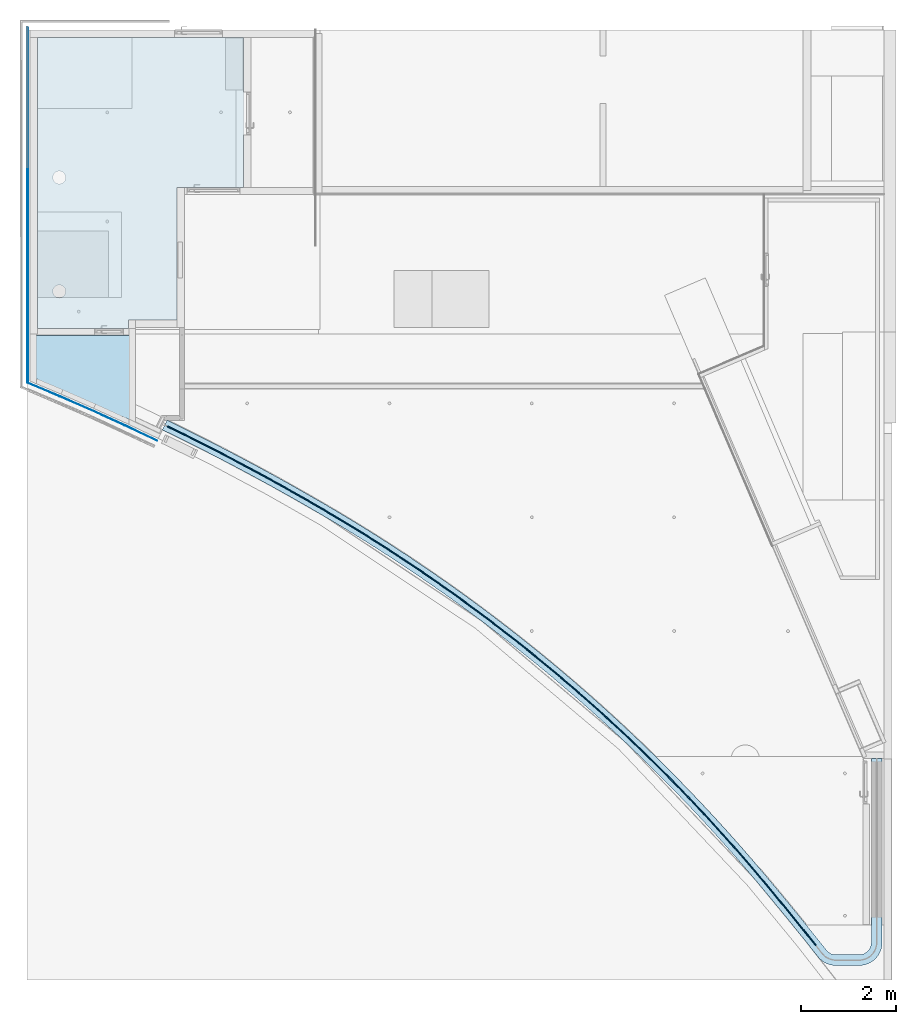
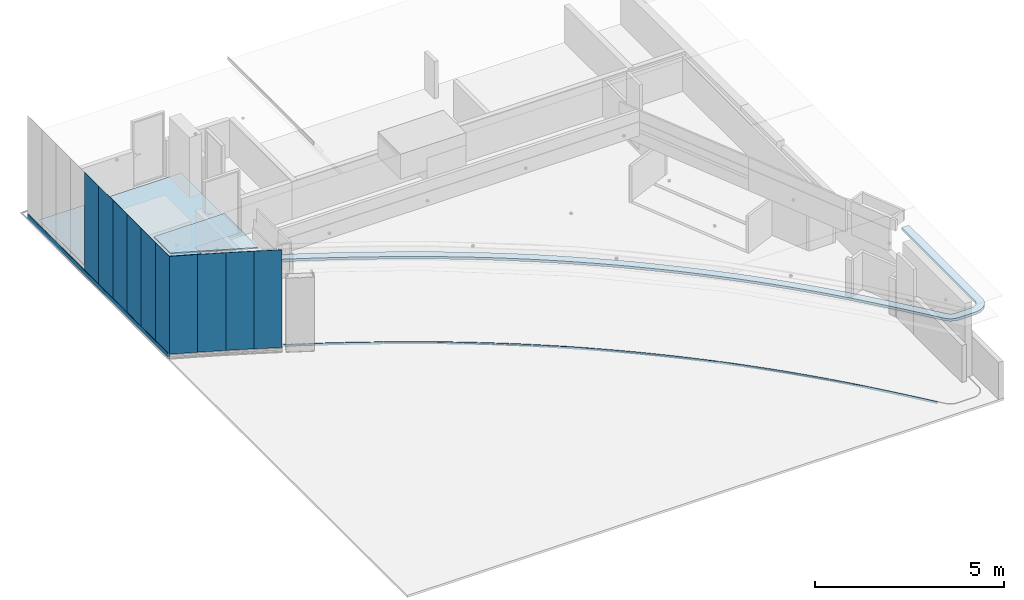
# One storey, part 1 of 16: 11 plates, 10 members, 9 slabs, 2 openings, 5 elements without a shape of their own.
"""IFC2X3 building model written with IfcOpenShell, lengths in millimetres."""

import ifcopenshell
import ifcopenshell.guid

model = None  # the IFC model being written
_history = None  # IfcOwnerHistory: only IFC2X3 demands one
_inside = {}  # id of a spatial element -> (the spatial element, [elements in it])
_under = {}  # id of a project, library or spatial element -> (it, [spatial elements below it])
_declared = {}  # id of a project -> (the project, [libraries it declares])
_typed = {}  # id of a type object -> (the type object, [elements of that type])
_made_of = {}  # id of a material, layer set ... -> (it, [elements and type objects made of it])


def new_model(schema):
    """Start an empty IFC model of exactly this schema.

    Asked for "IFC4X3", IfcOpenShell would pick the latest addendum, in which some entities
    have other attributes; the version numbers below select the first issue.
    IFC2X3 requires an IfcOwnerHistory on every rooted entity: one is made here for all.
    """
    global model, _history
    if schema == "IFC4X3":
        model = ifcopenshell.file(schema_version=(4, 3, 0, 0))
    else:
        model = ifcopenshell.file(schema=schema)
    _inside.clear()
    _under.clear()
    _declared.clear()
    _typed.clear()
    _made_of.clear()
    _history = None
    if model.schema == "IFC2X3":
        org = make("IfcOrganization", Name="unknown")
        user = make(
            "IfcPersonAndOrganization",
            ThePerson=make("IfcPerson", FamilyName="unknown"),
            TheOrganization=org,
        )
        app = make(
            "IfcApplication",
            ApplicationDeveloper=org,
            Version="unknown",
            ApplicationFullName="unknown",
            ApplicationIdentifier="unknown",
        )
        _history = make(
            "IfcOwnerHistory",
            OwningUser=user,
            OwningApplication=app,
            ChangeAction="ADDED",
            CreationDate=0,
        )
    return model


def make(cls, **values):
    """One entity of the class cls with the attributes given. An attribute that is None is left unset."""
    return model.create_entity(
        cls, **{name: value for name, value in values.items() if value is not None}
    )


def entity(cls, *values):
    """Any entity or typed value of the class cls, its attributes in the order of the schema. None: left unset."""
    e = model.create_entity(cls)
    for i, value in enumerate(values):
        if value is not None:
            e[i] = value
    return e


def rooted(cls, **values):
    """An entity with a GlobalId (a new one), such as an element, a storey or a relation."""
    return make(cls, GlobalId=ifcopenshell.guid.new(), OwnerHistory=_history, **values)


def si_unit(unit_type, name, prefix=None):
    """IfcSIUnit, for example si_unit("LENGTHUNIT", "METRE", prefix="MILLI")."""
    return make("IfcSIUnit", UnitType=unit_type, Prefix=prefix, Name=name)


def converted_unit(unit_type, name, factor, base, dimensions=None, offset=None):
    """IfcConversionBasedUnit, such as the inch: factor (a typed value) times the base unit."""
    return make(
        "IfcConversionBasedUnit"
        if offset is None
        else "IfcConversionBasedUnitWithOffset",
        ConversionOffset=offset,
        Dimensions=None
        if dimensions is None
        else entity("IfcDimensionalExponents", *dimensions),
        UnitType=unit_type,
        Name=name,
        ConversionFactor=make(
            "IfcMeasureWithUnit", ValueComponent=factor, UnitComponent=base
        ),
    )


def derived_unit(unit_type, elements):
    """IfcDerivedUnit: a product of units, each with its exponent."""
    return make(
        "IfcDerivedUnit",
        Elements=[
            make("IfcDerivedUnitElement", Unit=unit, Exponent=power)
            for unit, power in elements
        ],
        UnitType=unit_type,
    )


def assignment(units):
    """IfcUnitAssignment: the units of a project."""
    return None if units is None else make("IfcUnitAssignment", Units=units)


def point(xyz):
    """IfcCartesianPoint."""
    return None if xyz is None else make("IfcCartesianPoint", Coordinates=xyz)


def direction(xyz):
    """IfcDirection."""
    return None if xyz is None else make("IfcDirection", DirectionRatios=xyz)


def frame(location, z_axis=None, x_axis=None):
    """IfcAxis2Placement3D, a coordinate frame: its origin and axes. An axis left out is left unset."""
    return make(
        "IfcAxis2Placement3D",
        Location=point(location),
        Axis=direction(z_axis),
        RefDirection=direction(x_axis),
    )


def frame_2d(location, x_axis=None):
    """IfcAxis2Placement2D, a coordinate frame in the plane: its origin and x axis."""
    return make(
        "IfcAxis2Placement2D", Location=point(location), RefDirection=direction(x_axis)
    )


def origin():
    """The frame at (0, 0, 0) with its axes left unset."""
    return frame((0.0, 0.0, 0.0))


def origin_with_axes():
    """The frame at (0, 0, 0) with the z axis (0, 0, 1) and the x axis (1, 0, 0) written out."""
    return frame((0.0, 0.0, 0.0), z_axis=(0.0, 0.0, 1.0), x_axis=(1.0, 0.0, 0.0))


def origin_2d_with_axis():
    """The frame at (0, 0) in the plane with the x axis (1, 0) written out."""
    return frame_2d((0.0, 0.0), x_axis=(1.0, 0.0))


def place(relative_to, where):
    """IfcLocalPlacement: puts the frame where relative to a parent placement (None: the world)."""
    return make(
        "IfcLocalPlacement", PlacementRelTo=relative_to, RelativePlacement=where
    )


def context(
    kind, dimensions, precision=None, world=None, true_north=None, identifier=None
):
    """IfcGeometricRepresentationContext, for example the 3D "Model" context."""
    return make(
        "IfcGeometricRepresentationContext",
        ContextIdentifier=identifier,
        ContextType=kind,
        CoordinateSpaceDimension=dimensions,
        Precision=precision,
        WorldCoordinateSystem=world,
        TrueNorth=true_north,
    )


def subcontext(parent, identifier, kind, view, scale=None):
    """IfcGeometricRepresentationSubContext, for example "Body" below "Model"."""
    return make(
        "IfcGeometricRepresentationSubContext",
        ContextIdentifier=identifier,
        ContextType=kind,
        ParentContext=parent,
        TargetScale=scale,
        TargetView=view,
    )


def project(units=None, contexts=None):
    """IfcProject with its units and contexts."""
    return rooted(
        "IfcProject",
        Name="project",
        RepresentationContexts=contexts,
        UnitsInContext=assignment(units),
    )


def spatial(cls, under=None, at=None, **own):
    """A site, building, storey or space (cls), placed at a placement, below another one or the project."""
    s = rooted(cls, ObjectPlacement=at, **own)
    if under is not None:
        _under.setdefault(under.id(), (under, []))[1].append(s)
    return s


def polyline(points):
    """IfcPolyline through the points."""
    return make("IfcPolyline", Points=[point(p) for p in points])


def circle_curve(where, radius):
    """IfcCircle in the frame where."""
    return make("IfcCircle", Position=where, Radius=radius)


def parameter(value):
    """IfcParameterValue: where a trimmed curve begins or ends, as a parameter of its basis curve."""
    return model.create_entity("IfcParameterValue", value)


def trimmed(basis, trim1, trim2, sense, master):
    """IfcTrimmedCurve: the piece of a basis curve between two trims."""
    return make(
        "IfcTrimmedCurve",
        BasisCurve=basis,
        Trim1=trim1,
        Trim2=trim2,
        SenseAgreement=sense,
        MasterRepresentation=master,
    )


def segment(curve, same_sense, transition):
    """IfcCompositeCurveSegment."""
    return make(
        "IfcCompositeCurveSegment",
        Transition=transition,
        SameSense=same_sense,
        ParentCurve=curve,
    )


def composite_curve(segments, self_intersect=None):
    """IfcCompositeCurve: segments joined end to end."""
    return make("IfcCompositeCurve", Segments=segments, SelfIntersect=self_intersect)


def profile(cls, at=None, kind="AREA", **sizes):
    """A parametric profile (cls). Its sizes go by their IFC names, for example OverallWidth=200.0."""
    return make(cls, ProfileType=kind, Position=at, **sizes)


def rectangle(**sizes):
    """IfcRectangleProfileDef."""
    return profile("IfcRectangleProfileDef", **sizes)


def circle(**sizes):
    """IfcCircleProfileDef."""
    return profile("IfcCircleProfileDef", **sizes)


def outline(outer, holes=None, kind="AREA"):
    """IfcArbitraryClosedProfileDef: a profile drawn as a closed curve; with holes, ...WithVoids."""
    if holes is None:
        return make("IfcArbitraryClosedProfileDef", ProfileType=kind, OuterCurve=outer)
    return make(
        "IfcArbitraryProfileDefWithVoids",
        ProfileType=kind,
        OuterCurve=outer,
        InnerCurves=holes,
    )


def extrude(swept, where, along, depth):
    """IfcExtrudedAreaSolid: the profile swept, set in the frame where, extruded along a direction by depth."""
    return make(
        "IfcExtrudedAreaSolid",
        SweptArea=swept,
        Position=where,
        ExtrudedDirection=direction(along),
        Depth=depth,
    )


def shape(context_of_items, identifier, shape_type, items):
    """IfcShapeRepresentation: the items that make up one representation, for example the "Body"."""
    return make(
        "IfcShapeRepresentation",
        ContextOfItems=context_of_items,
        RepresentationIdentifier=identifier,
        RepresentationType=shape_type,
        Items=items,
    )


def source(mapping_origin, context_of_items, identifier, shape_type, items):
    """IfcRepresentationMap: a shape defined once, which mapped items show again and again."""
    return make(
        "IfcRepresentationMap",
        MappingOrigin=mapping_origin,
        MappedRepresentation=shape(context_of_items, identifier, shape_type, items),
    )


def transform(
    local_origin,
    x_axis=None,
    y_axis=None,
    z_axis=None,
    scale=None,
    scale2=None,
    scale3=None,
    uniform=True,
):
    """IfcCartesianTransformationOperator3D, or its non-uniform kind. x_axis, y_axis, z_axis: its Axis1, 2, 3."""
    if uniform:
        return make(
            "IfcCartesianTransformationOperator3D",
            Axis1=direction(x_axis),
            Axis2=direction(y_axis),
            LocalOrigin=point(local_origin),
            Scale=scale,
            Axis3=direction(z_axis),
        )
    return make(
        "IfcCartesianTransformationOperator3DnonUniform",
        Axis1=direction(x_axis),
        Axis2=direction(y_axis),
        LocalOrigin=point(local_origin),
        Scale=scale,
        Axis3=direction(z_axis),
        Scale2=scale2,
        Scale3=scale3,
    )


def mapped(mapping_source, mapping_target):
    """IfcMappedItem: shows the shape of a source again, moved by a transform."""
    return make(
        "IfcMappedItem", MappingSource=mapping_source, MappingTarget=mapping_target
    )


def material(Name=None, Category=None):
    """IfcMaterial."""
    return make("IfcMaterial", Name=Name, Category=Category)


def layer(
    of_material, thickness, ventilated=None, Name=None, Category=None, Priority=None
):
    """IfcMaterialLayer: one layer of a wall or slab, of a material (None: an air gap)."""
    return make(
        "IfcMaterialLayer",
        Material=of_material,
        LayerThickness=thickness,
        IsVentilated=ventilated,
        Name=Name,
        Category=Category,
        Priority=Priority,
    )


def layer_set(layers, Name=None):
    """IfcMaterialLayerSet."""
    return make("IfcMaterialLayerSet", MaterialLayers=layers, LayerSetName=Name)


def layer_usage(for_layer_set, set_direction, sense, offset, extent=None):
    """IfcMaterialLayerSetUsage: how a layer set lies in its element."""
    return make(
        "IfcMaterialLayerSetUsage",
        ForLayerSet=for_layer_set,
        LayerSetDirection=set_direction,
        DirectionSense=sense,
        OffsetFromReferenceLine=offset,
        ReferenceExtent=extent,
    )


def made_of(thing, what):
    """Note that an element or type object is made of a material, layer set ...; save() writes the relation."""
    if what is not None:
        _made_of.setdefault(what.id(), (what, []))[1].append(thing)
    return thing


def type_object(cls, material=None, **own):
    """A type object (cls), such as IfcWallType, which elements share."""
    return made_of(rooted(cls, **own), material)


def element(
    cls,
    number,
    at=None,
    inside=None,
    cuts=None,
    type_object=None,
    material=None,
    context=None,
    identifier="Body",
    shape_type=None,
    held_by="IfcProductDefinitionShape",
    body=None,
    shapes=None,
    **own,
):
    """One element of the class cls, such as IfcWall. Its Tag is "e" and its number.

    at: its placement. inside: the storey or other place that contains it. cuts: it is an
    opening in that element (IfcRelVoidsElement). A single representation is given by context,
    identifier, shape_type and body (its items); several are given by shapes. held_by: the class
    of the entity that holds the representations. save() writes the other relations.
    """
    e = rooted(cls, Tag="e%d" % number, ObjectPlacement=at, **own)
    if body is not None:
        shapes = [shape(context, identifier, shape_type, body)]
    if shapes is not None:
        e.Representation = make(held_by, Representations=shapes)
    if inside is not None:
        _inside.setdefault(inside.id(), (inside, []))[1].append(e)
    if cuts is not None:
        rooted(
            "IfcRelVoidsElement", RelatingBuildingElement=cuts, RelatedOpeningElement=e
        )
    if type_object is not None:
        _typed.setdefault(type_object.id(), (type_object, []))[1].append(e)
    return made_of(e, material)


def aggregate(whole, parts):
    """IfcRelAggregates: a whole, such as a stair, and the parts it consists of."""
    return rooted("IfcRelAggregates", RelatingObject=whole, RelatedObjects=parts)


def save(model, path):
    """Write the relations noted so far, then the file.

    IfcRelAggregates (storeys below a building ...), IfcRelContainedInSpatialStructure (elements
    in a storey), IfcRelDefinesByType, IfcRelAssociatesMaterial and IfcRelDeclares: one each for
    every whole, place, type object, material and project.
    """
    for whole, parts in _under.values():
        aggregate(whole, parts)
    for where, things in _inside.values():
        rooted(
            "IfcRelContainedInSpatialStructure",
            RelatedElements=things,
            RelatingStructure=where,
        )
    for kind, things in _typed.values():
        rooted("IfcRelDefinesByType", RelatedObjects=things, RelatingType=kind)
    for what, things in _made_of.values():
        rooted("IfcRelAssociatesMaterial", RelatedObjects=things, RelatingMaterial=what)
    for by, libraries in _declared.values():
        rooted("IfcRelDeclares", RelatingContext=by, RelatedDefinitions=libraries)
    model.write(path)


model = new_model("IFC2X3")

# Units and contexts
model_context = context("Model", 3, precision=0.01, world=frame((0.0, 4.29681676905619e-09, 0.0)), true_north=direction((4.01073788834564e-13, 1.0)))
plan_context = context("Plan", 3, precision=0.01, world=frame((0.0, 4.29681676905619e-09, 0.0)), true_north=direction((4.01073788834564e-13, 1.0)))
body_context = subcontext(model_context, "Body", "Model", "MODEL_VIEW")
ifc_project = project(units=[converted_unit("PLANEANGLEUNIT", "DEGREE", entity("IfcPositiveLengthMeasure", 0.0174532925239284), si_unit("PLANEANGLEUNIT", "RADIAN"), dimensions=[0, 0, 0, 0, 0, 0, 0]), si_unit("AREAUNIT", "SQUARE_METRE"), si_unit("LENGTHUNIT", "METRE", prefix="MILLI"), si_unit("MASSUNIT", "GRAM", prefix="KILO"), si_unit("POWERUNIT", "WATT"), si_unit("PRESSUREUNIT", "PASCAL"), si_unit("FORCEUNIT", "NEWTON", prefix="KILO"), si_unit("ELECTRICCURRENTUNIT", "AMPERE"), si_unit("THERMODYNAMICTEMPERATUREUNIT", "DEGREE_CELSIUS"), si_unit("TIMEUNIT", "SECOND"), si_unit("VOLUMEUNIT", "CUBIC_METRE"), derived_unit("LINEARVELOCITYUNIT", [(si_unit("LENGTHUNIT", "METRE"), 1), (si_unit("TIMEUNIT", "SECOND"), -1)]), derived_unit("VOLUMETRICFLOWRATEUNIT", [(si_unit("VOLUMEUNIT", "CUBIC_METRE"), 1), (si_unit("TIMEUNIT", "SECOND"), -1)]), derived_unit("THERMALTRANSMITTANCEUNIT", [(si_unit("POWERUNIT", "WATT"), 1), (si_unit("THERMODYNAMICTEMPERATUREUNIT", "KELVIN"), -1), (si_unit("AREAUNIT", "SQUARE_METRE"), -1)])], contexts=[model_context, plan_context])

# Site, building, storey
site_placement = place(None, origin_with_axes())
site = spatial("IfcSite", under=ifc_project, at=site_placement, Name="ENGM", CompositionType="ELEMENT")
building_placement = place(site_placement, origin_with_axes())
building = spatial("IfcBuilding", under=site, at=building_placement, Name="TS", CompositionType="ELEMENT")
storey_placement = place(building_placement, frame((0.0, 0.0, 204000.0), z_axis=(0.0, 0.0, 1.0), x_axis=(1.0, 0.0, 0.0)))
storey = spatial("IfcBuildingStorey", under=building, at=storey_placement, Name="Nivå D", CompositionType="ELEMENT", Elevation=204000.0)

# Curtain wall, members, plates
curtain_wall_type = type_object("IfcCurtainWallType", Name="Curtain Wall:A245 - IGK - Glass Kledning", PredefinedType="NOTDEFINED")
curtain_wall_1_placement = place(storey_placement, frame((0.0, 0.0, -204000.0), z_axis=(0.0, 0.0, 1.0), x_axis=(1.0, 0.0, 0.0)))
curtain_wall_1 = element("IfcCurtainWall", 1, at=curtain_wall_1_placement, inside=storey, type_object=curtain_wall_type, Name="Curtain Wall:A245 - IGK - Glass Kledning", ObjectType="Curtain Wall:A245 - IGK - Glass Kledning")
ifc_material_1 = material(Name="Fuge transparent")
member_type_1 = type_object("IfcMemberType", Name="Rectangular Mullion:A241 - 10 mm fuge", PredefinedType="MULLION", material=ifc_material_1)
shared_shape_1 = source(origin(), body_context, "Body", "SweptSolid", [
    extrude(rectangle(XDim=19.9999999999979, YDim=10.0, at=origin_2d_with_axis()), frame((0.0, 10.0, -750.0), z_axis=(0.0, 0.0, 1.0), x_axis=(0.0, 1.0, 0.0)), (0.0, 0.0, 1.0), 750.000000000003),
])
member_1_placement = place(curtain_wall_1_placement, frame((513862.500000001, 415680.191453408, 204155.0), z_axis=(0.0, 1.0, 0.0), x_axis=(0.0, 0.0, 1.0)))
member_1 = element("IfcMember", 2, at=member_1_placement, type_object=member_type_1, material=ifc_material_1, Name="Rectangular Mullion:A241 - 10 mm fuge", ObjectType="Rectangular Mullion:A241 - 10 mm fuge", context=body_context, shape_type="MappedRepresentation", body=[
    mapped(shared_shape_1, transform((0.0, 0.0, 0.0), scale=1.0)),
])
member_2_placement = place(curtain_wall_1_placement, frame((513862.500000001, 417180.191453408, 204155.0), z_axis=(0.0, 1.0, 0.0), x_axis=(0.0, 0.0, 1.0)))
member_2 = element("IfcMember", 3, at=member_2_placement, type_object=member_type_1, material=ifc_material_1, Name="Rectangular Mullion:A241 - 10 mm fuge", ObjectType="Rectangular Mullion:A241 - 10 mm fuge", context=body_context, shape_type="MappedRepresentation", body=[
    mapped(shared_shape_1, transform((0.0, 0.0, 0.0), scale=1.0)),
])
member_3_placement = place(curtain_wall_1_placement, frame((513862.500000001, 418680.191453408, 204155.0), z_axis=(0.0, 1.0, 0.0), x_axis=(0.0, 0.0, 1.0)))
member_3 = element("IfcMember", 4, at=member_3_placement, type_object=member_type_1, material=ifc_material_1, Name="Rectangular Mullion:A241 - 10 mm fuge", ObjectType="Rectangular Mullion:A241 - 10 mm fuge", context=body_context, shape_type="MappedRepresentation", body=[
    mapped(shared_shape_1, transform((0.0, 0.0, 0.0), scale=1.0)),
])
member_4_placement = place(curtain_wall_1_placement, frame((513862.500000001, 420180.191453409, 204155.0), z_axis=(0.0, 1.0, 0.0), x_axis=(0.0, 0.0, 1.0)))
member_4 = element("IfcMember", 5, at=member_4_placement, type_object=member_type_1, material=ifc_material_1, Name="Rectangular Mullion:A241 - 10 mm fuge", ObjectType="Rectangular Mullion:A241 - 10 mm fuge", context=body_context, shape_type="MappedRepresentation", body=[
    mapped(shared_shape_1, transform((0.0, 0.0, 0.0), scale=1.0)),
])
member_type_2 = type_object("IfcMemberType", Name="Rectangular Mullion:A241 - 10 mm fuge", PredefinedType="MULLION", material=ifc_material_1)
member_5_placement = place(curtain_wall_1_placement, frame((513862.500000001, 414180.191453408, 204155.0), z_axis=(0.0, 1.0, 0.0), x_axis=(0.0, 0.0, 1.0)))
member_5 = element("IfcMember", 6, at=member_5_placement, type_object=member_type_2, material=ifc_material_1, Name="Rectangular Mullion:A241 - 10 mm fuge", ObjectType="Rectangular Mullion:A241 - 10 mm fuge", context=body_context, shape_type="MappedRepresentation", body=[
    mapped(shared_shape_1, transform((0.0, 0.0, 0.0), scale=1.0)),
])
member_6_placement = place(curtain_wall_1_placement, frame((513862.500000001, 419430.191453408, 204155.0), z_axis=(0.0, 1.0, 0.0), x_axis=(0.0, 0.0, 1.0)))
member_6 = element("IfcMember", 7, at=member_6_placement, type_object=member_type_1, material=ifc_material_1, Name="Rectangular Mullion:A241 - 10 mm fuge", ObjectType="Rectangular Mullion:A241 - 10 mm fuge", context=body_context, shape_type="MappedRepresentation", body=[
    mapped(shared_shape_1, transform((0.0, 0.0, 0.0), scale=1.0)),
])
member_7_placement = place(curtain_wall_1_placement, frame((513862.500000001, 417930.191453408, 204155.0), z_axis=(0.0, 1.0, 0.0), x_axis=(0.0, 0.0, 1.0)))
member_7 = element("IfcMember", 8, at=member_7_placement, type_object=member_type_1, material=ifc_material_1, Name="Rectangular Mullion:A241 - 10 mm fuge", ObjectType="Rectangular Mullion:A241 - 10 mm fuge", context=body_context, shape_type="MappedRepresentation", body=[
    mapped(shared_shape_1, transform((0.0, 0.0, 0.0), scale=1.0)),
])
member_8_placement = place(curtain_wall_1_placement, frame((513862.500000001, 416430.191453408, 204155.0), z_axis=(0.0, 1.0, 0.0), x_axis=(0.0, 0.0, 1.0)))
member_8 = element("IfcMember", 9, at=member_8_placement, type_object=member_type_1, material=ifc_material_1, Name="Rectangular Mullion:A241 - 10 mm fuge", ObjectType="Rectangular Mullion:A241 - 10 mm fuge", context=body_context, shape_type="MappedRepresentation", body=[
    mapped(shared_shape_1, transform((0.0, 0.0, 0.0), scale=1.0)),
])
member_9_placement = place(curtain_wall_1_placement, frame((513862.500000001, 414930.191453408, 204155.0), z_axis=(0.0, 1.0, 0.0), x_axis=(0.0, 0.0, 1.0)))
member_9 = element("IfcMember", 10, at=member_9_placement, type_object=member_type_1, material=ifc_material_1, Name="Rectangular Mullion:A241 - 10 mm fuge", ObjectType="Rectangular Mullion:A241 - 10 mm fuge", context=body_context, shape_type="MappedRepresentation", body=[
    mapped(shared_shape_1, transform((0.0, 0.0, 0.0), scale=1.0)),
])
member_type_3 = type_object("IfcMemberType", Name="Rectangular Mullion:A241 - 10 mm fuge", PredefinedType="MULLION", material=ifc_material_1)
shared_shape_2 = source(origin(), body_context, "Body", "SweptSolid", [
    extrude(outline(polyline([(-380.0, -10.0), (370.0, -10.0), (370.0, 10.0), (-360.0, 10.0), (-380.0, -10.0)])), frame((-5.0, 10.0, -380.0), z_axis=(1.0, 0.0, 0.0), x_axis=(0.0, 0.0, -1.0)), (0.0, 0.0, 1.0), 10.0),
])
member_10_placement = place(curtain_wall_1_placement, frame((513862.500000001, 420930.191453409, 204155.0), z_axis=(0.0, 1.0, 0.0), x_axis=(0.0, 0.0, 1.0)))
member_10 = element("IfcMember", 11, at=member_10_placement, type_object=member_type_3, material=ifc_material_1, Name="Rectangular Mullion:A241 - 10 mm fuge", ObjectType="Rectangular Mullion:A241 - 10 mm fuge", context=body_context, shape_type="MappedRepresentation", body=[
    mapped(shared_shape_2, transform((0.0, 0.0, 0.0), scale=1.0)),
])
ifc_material_2 = material(Name="_NSW Stål, rustfritt")
plate_type_1 = type_object("IfcPlateType", Name="System Panel:A245 - KL-S01 - Veggkledning metallplate sokkel - IGK - 10mm", PredefinedType="CURTAIN_PANEL", material=ifc_material_2)
shared_shape_3 = source(origin(), body_context, "Body", "SweptSolid", [
    extrude(rectangle(XDim=150.000000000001, YDim=7499.99999999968, at=frame_2d((0.0, 2.54885890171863e-10), x_axis=(1.0, 0.0))), frame((0.0, -10.0, 75.0), z_axis=(0.0, 1.0, 0.0), x_axis=(0.0, 0.0, 1.0)), (0.0, 0.0, 1.0), 10.0),
])
plate_1_placement = place(curtain_wall_1_placement, frame((513862.500000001, 417180.191453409, 204000.0), z_axis=(0.0, 0.0, 1.0), x_axis=(0.0, 1.0, 0.0)))
plate_1 = element("IfcPlate", 12, at=plate_1_placement, type_object=plate_type_1, material=ifc_material_2, Name="System Panel:A245 - KL-S01 - Veggkledning metallplate sokkel - IGK - 10mm", ObjectType="System Panel:A245 - KL-S01 - Veggkledning metallplate sokkel - IGK - 10mm", context=body_context, shape_type="MappedRepresentation", body=[
    mapped(shared_shape_3, transform((0.0, 0.0, 0.0), scale=1.0)),
])
ifc_material_3 = material(Name="KL-G01")
plate_type_2 = type_object("IfcPlateType", Name="System Panel:A245 - KL-G01 - Veggkledning glasspanel", PredefinedType="CURTAIN_PANEL", material=ifc_material_3)
shared_shape_4 = source(origin(), body_context, "Body", "SweptSolid", [
    extrude(rectangle(XDim=10.0, YDim=749.999999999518, at=origin_2d_with_axis()), frame((0.0, -5.0, 0.0), z_axis=(0.0, 0.0, 1.0), x_axis=(0.0, 1.0, 0.0)), (0.0, 0.0, 1.0), 3159.99999999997),
])
plate_2_placement = place(curtain_wall_1_placement, frame((513862.500000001, 413805.191453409, 204160.0), z_axis=(0.0, 0.0, 1.0), x_axis=(0.0, 1.0, 0.0)))
plate_2 = element("IfcPlate", 13, at=plate_2_placement, type_object=plate_type_2, material=ifc_material_3, Name="System Panel:A245 - KL-G01 - Veggkledning glasspanel", ObjectType="System Panel:A245 - KL-G01 - Veggkledning glasspanel", context=body_context, shape_type="MappedRepresentation", body=[
    mapped(shared_shape_4, transform((0.0, 0.0, 0.0), scale=1.0)),
])
plate_3_placement = place(curtain_wall_1_placement, frame((513862.500000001, 414555.191453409, 204160.0), z_axis=(0.0, 0.0, 1.0), x_axis=(0.0, 1.0, 0.0)))
plate_3 = element("IfcPlate", 14, at=plate_3_placement, type_object=plate_type_2, material=ifc_material_3, Name="System Panel:A245 - KL-G01 - Veggkledning glasspanel", ObjectType="System Panel:A245 - KL-G01 - Veggkledning glasspanel", context=body_context, shape_type="MappedRepresentation", body=[
    mapped(shared_shape_4, transform((0.0, 0.0, 0.0), scale=1.0)),
])
plate_4_placement = place(curtain_wall_1_placement, frame((513862.500000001, 415305.191453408, 204160.0), z_axis=(0.0, 0.0, 1.0), x_axis=(0.0, 1.0, 0.0)))
plate_4 = element("IfcPlate", 15, at=plate_4_placement, type_object=plate_type_2, material=ifc_material_3, Name="System Panel:A245 - KL-G01 - Veggkledning glasspanel", ObjectType="System Panel:A245 - KL-G01 - Veggkledning glasspanel", context=body_context, shape_type="MappedRepresentation", body=[
    mapped(shared_shape_4, transform((0.0, 0.0, 0.0), scale=1.0)),
])
plate_5_placement = place(curtain_wall_1_placement, frame((513862.500000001, 416055.191453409, 204160.0), z_axis=(0.0, 0.0, 1.0), x_axis=(0.0, 1.0, 0.0)))
plate_5 = element("IfcPlate", 16, at=plate_5_placement, type_object=plate_type_2, material=ifc_material_3, Name="System Panel:A245 - KL-G01 - Veggkledning glasspanel", ObjectType="System Panel:A245 - KL-G01 - Veggkledning glasspanel", context=body_context, shape_type="MappedRepresentation", body=[
    mapped(shared_shape_4, transform((0.0, 0.0, 0.0), scale=1.0)),
])
plate_6_placement = place(curtain_wall_1_placement, frame((513862.500000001, 416805.191453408, 204160.0), z_axis=(0.0, 0.0, 1.0), x_axis=(0.0, 1.0, 0.0)))
plate_6 = element("IfcPlate", 17, at=plate_6_placement, type_object=plate_type_2, material=ifc_material_3, Name="System Panel:A245 - KL-G01 - Veggkledning glasspanel", ObjectType="System Panel:A245 - KL-G01 - Veggkledning glasspanel", context=body_context, shape_type="MappedRepresentation", body=[
    mapped(shared_shape_4, transform((0.0, 0.0, 0.0), scale=1.0)),
])
plate_7_placement = place(curtain_wall_1_placement, frame((513862.500000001, 417555.191453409, 204160.0), z_axis=(0.0, 0.0, 1.0), x_axis=(0.0, 1.0, 0.0)))
plate_7 = element("IfcPlate", 18, at=plate_7_placement, type_object=plate_type_2, material=ifc_material_3, Name="System Panel:A245 - KL-G01 - Veggkledning glasspanel", ObjectType="System Panel:A245 - KL-G01 - Veggkledning glasspanel", context=body_context, shape_type="MappedRepresentation", body=[
    mapped(shared_shape_4, transform((0.0, 0.0, 0.0), scale=1.0)),
])
aggregate(curtain_wall_1, [member_1, member_2, member_3, member_4, member_5, member_6, member_10, member_7, member_8, member_9, plate_1, plate_2, plate_3, plate_4, plate_5, plate_6, plate_7])

# Curtain wall, plate
curtain_wall_2_placement = place(storey_placement, frame((0.0, 0.0, -204000.0), z_axis=(0.0, 0.0, 1.0), x_axis=(1.0, 0.0, 0.0)))
curtain_wall_2 = element("IfcCurtainWall", 19, at=curtain_wall_2_placement, inside=storey, type_object=curtain_wall_type, Name="Curtain Wall:A245 - IGK - Glass Kledning", ObjectType="Curtain Wall:A245 - IGK - Glass Kledning")
plate_8_placement = place(curtain_wall_2_placement, frame((514208.385746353, 413285.318921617, 204160.0), z_axis=(0.0, 0.0, 1.0), x_axis=(-0.922361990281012, 0.386326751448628, 0.0)))
plate_8 = element("IfcPlate", 20, at=plate_8_placement, type_object=plate_type_2, material=ifc_material_3, Name="System Panel:A245 - KL-G01 - Veggkledning glasspanel", ObjectType="System Panel:A245 - KL-G01 - Veggkledning glasspanel", context=body_context, shape_type="MappedRepresentation", body=[
    mapped(shared_shape_4, transform((0.0, 0.0, 0.0), scale=1.0)),
])
aggregate(curtain_wall_2, [plate_8])

curtain_wall_3_placement = place(storey_placement, frame((0.0, 0.0, -204000.0), z_axis=(0.0, 0.0, 1.0), x_axis=(1.0, 0.0, 0.0)))
curtain_wall_3 = element("IfcCurtainWall", 21, at=curtain_wall_3_placement, inside=storey, type_object=curtain_wall_type, Name="Curtain Wall:A245 - IGK - Glass Kledning", ObjectType="Curtain Wall:A245 - IGK - Glass Kledning")
plate_9_placement = place(curtain_wall_3_placement, frame((514897.737512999, 412989.926979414, 204160.0), z_axis=(0.0, 0.0, 1.0), x_axis=(-0.915909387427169, 0.401385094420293, 0.0)))
plate_9 = element("IfcPlate", 22, at=plate_9_placement, type_object=plate_type_2, material=ifc_material_3, Name="System Panel:A245 - KL-G01 - Veggkledning glasspanel", ObjectType="System Panel:A245 - KL-G01 - Veggkledning glasspanel", context=body_context, shape_type="MappedRepresentation", body=[
    mapped(shared_shape_4, transform((0.0, 0.0, 0.0), scale=1.0)),
])
aggregate(curtain_wall_3, [plate_9])

curtain_wall_4_placement = place(storey_placement, frame((0.0, 0.0, -204000.0), z_axis=(0.0, 0.0, 1.0), x_axis=(1.0, 0.0, 0.0)))
curtain_wall_4 = element("IfcCurtainWall", 23, at=curtain_wall_4_placement, inside=storey, type_object=curtain_wall_type, Name="Curtain Wall:A245 - IGK - Glass Kledning", ObjectType="Curtain Wall:A245 - IGK - Glass Kledning")
plate_10_placement = place(curtain_wall_4_placement, frame((515582.503946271, 412684.040171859, 204160.0), z_axis=(0.0, 0.0, 1.0), x_axis=(-0.910134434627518, 0.414313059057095, 0.0)))
plate_10 = element("IfcPlate", 24, at=plate_10_placement, type_object=plate_type_2, material=ifc_material_3, Name="System Panel:A245 - KL-G01 - Veggkledning glasspanel", ObjectType="System Panel:A245 - KL-G01 - Veggkledning glasspanel", context=body_context, shape_type="MappedRepresentation", body=[
    mapped(shared_shape_4, transform((0.0, 0.0, 0.0), scale=1.0)),
])
aggregate(curtain_wall_4, [plate_10])

curtain_wall_5_placement = place(storey_placement, frame((0.0, 0.0, -204000.0), z_axis=(0.0, 0.0, 1.0), x_axis=(1.0, 0.0, 0.0)))
curtain_wall_5 = element("IfcCurtainWall", 25, at=curtain_wall_5_placement, inside=storey, type_object=curtain_wall_type, Name="Curtain Wall:A245 - IGK - Glass Kledning", ObjectType="Curtain Wall:A245 - IGK - Glass Kledning")
plate_11_placement = place(curtain_wall_5_placement, frame((516262.492602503, 412367.69055865, 204160.0), z_axis=(0.0, 0.0, 1.0), x_axis=(-0.903168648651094, 0.42928590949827, 0.0)))
plate_11 = element("IfcPlate", 26, at=plate_11_placement, type_object=plate_type_2, material=ifc_material_3, Name="System Panel:A245 - KL-G01 - Veggkledning glasspanel", ObjectType="System Panel:A245 - KL-G01 - Veggkledning glasspanel", context=body_context, shape_type="MappedRepresentation", body=[
    mapped(shared_shape_4, transform((0.0, 0.0, 0.0), scale=1.0)),
])
aggregate(curtain_wall_5, [plate_11])

# Slabs
ifc_material_4 = material(Name="_NSW Gulv (Generell)")
ifc_layer_1 = layer(ifc_material_4, 70.0)
ifc_layer_set_1 = layer_set([ifc_layer_1], Name="Floor:A254 - Gulvoppbygging m_f.o - 70 mm")
ifc_layer_usage_1 = layer_usage(ifc_layer_set_1, "AXIS3", "POSITIVE", 0.0)
slab_type_1 = type_object("IfcSlabType", Name="Floor:A254 - Gulvoppbygging m_f.o - 70 mm", PredefinedType="FLOOR", material=ifc_layer_set_1)
slab_1_placement = place(storey_placement, frame((516758.588893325, 401254.749999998, -70.0), z_axis=(0.0, 0.0, 1.0), x_axis=(1.0, 0.0, 0.0)))
element("IfcSlab", 27, at=slab_1_placement, inside=storey, type_object=slab_type_1, material=ifc_layer_usage_1, Name="Floor:A254 - Gulvoppbygging m_f.o - 70 mm:2", ObjectType="Floor:A254 - Gulvoppbygging m_f.o - 70 mm", PredefinedType="FLOOR", context=body_context, shape_type="SweptSolid", body=[
    extrude(outline(composite_curve([segment(polyline([(7448.32160917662, 5601.68124275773), (7440.01499966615, 5618.7692572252)]), True, "CONTINUOUS"), segment(trimmed(circle_curve(frame_2d((28796.0894560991, -38314.066254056), x_axis=(-1.0, 0.0)), 48848.5), [parameter(295.924727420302)], [parameter(299.004526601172)], True, "PARAMETER"), True, "CONTINUOUS"), segment(polyline([(5110.49143547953, 4407.92338425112), (5119.70736277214, 4391.30812927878)]), True, "CONTINUOUS"), segment(trimmed(circle_curve(frame_2d((28796.0894560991, -38314.066254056), x_axis=(-1.0, 0.0)), 48829.5), [parameter(295.924727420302)], [parameter(299.004522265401)], True, "PARAMETER"), False, "CONTINUOUS")], self_intersect=False)), frame((7510.45555333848, 5648.89152809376, 70.0), z_axis=(0.0, 0.0, -1.0), x_axis=(-1.0, 0.0, 0.0)), (0.0, 0.0, 1.0), 69.9999999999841),
])
slab_2_placement = place(storey_placement, frame((516758.588893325, 401254.749999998, -70.0), z_axis=(0.0, 0.0, 1.0), x_axis=(1.0, 0.0, 0.0)))
element("IfcSlab", 28, at=slab_2_placement, inside=storey, type_object=slab_type_1, material=ifc_layer_usage_1, Name="Floor:A254 - Gulvoppbygging m_f.o - 70 mm:3", ObjectType="Floor:A254 - Gulvoppbygging m_f.o - 70 mm", PredefinedType="FLOOR", context=body_context, shape_type="SweptSolid", body=[
    extrude(outline(composite_curve([segment(polyline([(5103.05379786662, 4382.07094297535), (5093.83787057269, 4398.68619795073)]), True, "CONTINUOUS"), segment(trimmed(circle_curve(frame_2d((28796.0894560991, -38314.066254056), x_axis=(-1.0, 0.0)), 48848.5), [parameter(299.026863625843)], [parameter(300.401295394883)], True, "PARAMETER"), True, "CONTINUOUS"), segment(trimmed(circle_curve(frame_2d((21880.8715969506, -26527.9733068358), x_axis=(-1.0, 0.0)), 35183.5), [parameter(300.401295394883)], [parameter(303.280831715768)], True, "PARAMETER"), True, "CONTINUOUS"), segment(polyline([(2574.16633856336, 2885.11568965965), (2584.5924587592, 2869.23186084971)]), True, "CONTINUOUS"), segment(trimmed(circle_curve(frame_2d((21880.8715969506, -26527.9733068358), x_axis=(-1.0, 0.0)), 35164.5), [parameter(300.401295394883)], [parameter(303.280831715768)], True, "PARAMETER"), False, "CONTINUOUS"), segment(trimmed(circle_curve(frame_2d((28796.0894560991, -38314.066254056), x_axis=(-1.0, 0.0)), 48829.5), [parameter(299.026867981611)], [parameter(300.401295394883)], True, "PARAMETER"), False, "CONTINUOUS")], self_intersect=False)), frame((7510.45555333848, 5648.89152809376, 70.0), z_axis=(0.0, 0.0, -1.0), x_axis=(-1.0, 0.0, 0.0)), (0.0, 0.0, 1.0), 69.9999999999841),
])
slab_3_placement = place(storey_placement, frame((516758.588893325, 401254.749999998, -70.0), z_axis=(0.0, 0.0, 1.0), x_axis=(1.0, 0.0, 0.0)))
element("IfcSlab", 29, at=slab_3_placement, inside=storey, type_object=slab_type_1, material=ifc_layer_usage_1, Name="Floor:A254 - Gulvoppbygging m_f.o - 70 mm:4", ObjectType="Floor:A254 - Gulvoppbygging m_f.o - 70 mm", PredefinedType="FLOOR", context=body_context, shape_type="SweptSolid", body=[
    extrude(outline(composite_curve([segment(polyline([(2568.72002201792, 2858.80708498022), (2558.28532566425, 2874.68528109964)]), True, "CONTINUOUS"), segment(trimmed(circle_curve(frame_2d((21880.8715969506, -26527.9733068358), x_axis=(-1.0, 0.0)), 35183.5), [parameter(303.31177291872)], [parameter(307.689659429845)], True, "PARAMETER"), True, "CONTINUOUS"), segment(polyline([(370.234449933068, 1313.92249390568), (381.850750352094, 1298.88715005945)]), True, "CONTINUOUS"), segment(trimmed(circle_curve(frame_2d((21880.8715969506, -26527.9733068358), x_axis=(-1.0, 0.0)), 35164.5), [parameter(303.31177291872)], [parameter(307.689659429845)], True, "PARAMETER"), False, "CONTINUOUS")], self_intersect=False)), frame((7510.45555333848, 5648.89152809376, 70.0), z_axis=(0.0, 0.0, -1.0), x_axis=(-1.0, 0.0, 0.0)), (0.0, 0.0, 1.0), 69.9999999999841),
])
slab_4_placement = place(storey_placement, frame((516758.588893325, 401254.749999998, -70.0), z_axis=(0.0, 0.0, 1.0), x_axis=(1.0, 0.0, 0.0)))
element("IfcSlab", 30, at=slab_4_placement, inside=storey, type_object=slab_type_1, material=ifc_layer_usage_1, Name="Floor:A254 - Gulvoppbygging m_f.o - 70 mm:5", ObjectType="Floor:A254 - Gulvoppbygging m_f.o - 70 mm", PredefinedType="FLOOR", context=body_context, shape_type="SweptSolid", body=[
    extrude(outline(composite_curve([segment(polyline([(366.826661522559, 1287.27306572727), (355.202243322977, 1302.30213427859)]), True, "CONTINUOUS"), segment(trimmed(circle_curve(frame_2d((21880.8715969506, -26527.9733068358), x_axis=(-1.0, 0.0)), 35183.5), [parameter(307.720600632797)], [parameter(313.049293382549)], True, "PARAMETER"), True, "CONTINUOUS"), segment(polyline([(-2136.34652107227, -817.043605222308), (-2123.3766020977, -830.928172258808)]), True, "CONTINUOUS"), segment(trimmed(circle_curve(frame_2d((21880.8715969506, -26527.9733068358), x_axis=(-1.0, 0.0)), 35164.5), [parameter(307.720600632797)], [parameter(313.049293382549)], True, "PARAMETER"), False, "CONTINUOUS")], self_intersect=False)), frame((7510.45555333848, 5648.89152809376, 70.0), z_axis=(0.0, 0.0, -1.0), x_axis=(-1.0, 0.0, 0.0)), (0.0, 0.0, 1.0), 69.9999999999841),
])
slab_5_placement = place(storey_placement, frame((516758.588893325, 401254.749999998, -70.0), z_axis=(0.0, 0.0, 1.0), x_axis=(1.0, 0.0, 0.0)))
element("IfcSlab", 31, at=slab_5_placement, inside=storey, type_object=slab_type_1, material=ifc_layer_usage_1, Name="Floor:A254 - Gulvoppbygging m_f.o - 70 mm:6", ObjectType="Floor:A254 - Gulvoppbygging m_f.o - 70 mm", PredefinedType="FLOOR", context=body_context, shape_type="SweptSolid", body=[
    extrude(outline(composite_curve([segment(polyline([(-2137.25017032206, -843.894833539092), (-2150.22758543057, -830.017272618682)]), True, "CONTINUOUS"), segment(trimmed(circle_curve(frame_2d((21880.8715969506, -26527.9733068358), x_axis=(-1.0, 0.0)), 35183.5), [parameter(313.080234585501)], [parameter(318.011773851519)], True, "PARAMETER"), True, "CONTINUOUS"), segment(polyline([(-4270.40159528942, -2990.9900108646), (-4256.27923137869, -3003.70059061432)]), True, "CONTINUOUS"), segment(trimmed(circle_curve(frame_2d((21880.8715969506, -26527.9733068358), x_axis=(-1.0, 0.0)), 35164.5), [parameter(313.080234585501)], [parameter(318.011773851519)], True, "PARAMETER"), False, "CONTINUOUS")], self_intersect=False)), frame((7510.45555333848, 5648.89152809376, 70.0), z_axis=(0.0, 0.0, -1.0), x_axis=(-1.0, 0.0, 0.0)), (0.0, 0.0, 1.0), 69.9999999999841),
])
slab_6_placement = place(storey_placement, frame((516758.588893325, 401254.749999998, -70.0), z_axis=(0.0, 0.0, 1.0), x_axis=(1.0, 0.0, 0.0)))
element("IfcSlab", 32, at=slab_6_placement, inside=storey, type_object=slab_type_1, material=ifc_layer_usage_1, Name="Floor:A254 - Gulvoppbygging m_f.o - 70 mm:7", ObjectType="Floor:A254 - Gulvoppbygging m_f.o - 70 mm", PredefinedType="FLOOR", context=body_context, shape_type="SweptSolid", body=[
    extrude(outline(composite_curve([segment(polyline([(-4268.97913534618, -3017.81875760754), (-4283.10836123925, -3005.11580615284)]), True, "CONTINUOUS"), segment(trimmed(circle_curve(frame_2d((21880.8715969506, -26527.9733068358), x_axis=(-1.0, 0.0)), 35183.5), [parameter(318.042715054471)], [parameter(319.731991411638)], True, "PARAMETER"), True, "CONTINUOUS"), segment(trimmed(circle_curve(frame_2d((46018.886419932, -46867.8114006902), x_axis=(-1.0, 0.0)), 66748.5), [parameter(319.802418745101)], [parameter(321.501356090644)], True, "PARAMETER"), True, "CONTINUOUS"), segment(polyline([(-6220.01758415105, -5317.1295687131), (-6205.14774923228, -5328.95699486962)]), True, "CONTINUOUS"), segment(trimmed(circle_curve(frame_2d((46018.886419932, -46867.8114006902), x_axis=(-1.0, 0.0)), 66729.5), [parameter(319.802428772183)], [parameter(321.501356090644)], True, "PARAMETER"), False, "CONTINUOUS"), segment(trimmed(circle_curve(frame_2d((21880.8715969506, -26527.9733068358), x_axis=(-1.0, 0.0)), 35164.5), [parameter(318.042715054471)], [parameter(319.731972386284)], True, "PARAMETER"), False, "CONTINUOUS")], self_intersect=False)), frame((7510.45555333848, 5648.89152809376, 70.0), z_axis=(0.0, 0.0, -1.0), x_axis=(-1.0, 0.0, 0.0)), (0.0, 0.0, 1.0), 69.9999999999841),
])
ifc_material_5 = material(Name="A254 - Metall rist")
ifc_layer_2 = layer(ifc_material_5, 40.0)
ifc_layer_set_2 = layer_set([ifc_layer_2], Name="Floor:A275 - Gitterrist")
ifc_layer_usage_2 = layer_usage(ifc_layer_set_2, "AXIS3", "POSITIVE", 0.0)
slab_type_2 = type_object("IfcSlabType", Name="Floor:A275 - Gitterrist", PredefinedType="FLOOR", material=ifc_layer_set_2)
slab_7_placement = place(storey_placement, origin_with_axes())
element("IfcSlab", 33, at=slab_7_placement, inside=storey, type_object=slab_type_2, material=ifc_layer_usage_2, Name="Floor:A275 - Gitterrist", ObjectType="Floor:A275 - Gitterrist", PredefinedType="FLOOR", context=body_context, shape_type="SweptSolid", body=[
    extrude(outline(polyline([(-201.801866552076, -1071.0), (671.153357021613, -1071.0), (671.153357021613, 1071.0), (-1140.50484749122, 1071.0), (-201.801866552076, -1071.0)])), frame((515036.000000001, 413758.846643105, 3320.0), z_axis=(0.0, 0.0, -1.0), x_axis=(0.0, 1.0, 0.0)), (0.0, 0.0, 1.0), 39.9999999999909),
])
ifc_material_6 = material(Name="<Unnamed>")
ifc_layer_3 = layer(ifc_material_6, 80.0)
ifc_layer_set_3 = layer_set([ifc_layer_3], Name="Floor:A251 - Standard - 80 mm")
ifc_layer_usage_3 = layer_usage(ifc_layer_set_3, "AXIS3", "POSITIVE", 0.0)
slab_type_3 = type_object("IfcSlabType", Name="Floor:A251 - Standard - 80 mm", PredefinedType="FLOOR", material=ifc_layer_set_3)
slab_8_placement = place(storey_placement, origin_with_axes())
element("IfcSlab", 34, at=slab_8_placement, inside=storey, type_object=slab_type_3, material=ifc_layer_usage_3, Name="Floor:A251 - Standard - 80 mm", ObjectType="Floor:A251 - Standard - 80 mm", PredefinedType="FLOOR", context=body_context, shape_type="SweptSolid", body=[
    extrude(outline(composite_curve([segment(polyline([(-3558.95119705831, -3520.04621670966), (-3070.95119705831, -3520.04621670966)]), True, "CONTINUOUS"), segment(trimmed(circle_curve(frame_2d((-3070.9511970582, -3035.04621670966), x_axis=(0.0, -1.0)), 484.999999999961), [parameter(0.0)], [parameter(48.7988371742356)], True, "PARAMETER"), True, "CONTINUOUS"), segment(trimmed(circle_curve(frame_2d((49589.8467080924, -44634.4311616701), x_axis=(-0.784928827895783, 0.619585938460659)), 66625.0000000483), [parameter(358.166820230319)], [parameter(0.0)], True, "PARAMETER"), False, "CONTINUOUS"), segment(trimmed(circle_curve(frame_2d((25451.8759532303, -24294.6279954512), x_axis=(-0.76470681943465, 0.64437836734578)), 35059.9999999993), [parameter(340.52037897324)], [parameter(0.0)], True, "PARAMETER"), False, "CONTINUOUS"), segment(trimmed(circle_curve(frame_2d((32367.093812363, -36080.7209426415), x_axis=(-0.506053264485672, 0.862502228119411)), 48724.9999999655), [parameter(355.442544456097)], [parameter(0.0)], True, "PARAMETER"), False, "CONTINUOUS"), segment(polyline([(11126.8990929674, 7771.0721025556), (11027.5093670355, 7976.26879448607)]), True, "CONTINUOUS"), segment(trimmed(circle_curve(frame_2d((32367.0938123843, -36080.7209426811), x_axis=(-0.435919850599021, 0.899985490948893)), 48953.0000000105), [parameter(0.0)], [parameter(4.55745554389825)], True, "PARAMETER"), True, "CONTINUOUS"), segment(trimmed(circle_curve(frame_2d((25451.8759532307, -24294.6279954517), x_axis=(-0.506053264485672, 0.862502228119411)), 35287.9999999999), [parameter(0.0)], [parameter(19.4796210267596)], True, "PARAMETER"), True, "CONTINUOUS"), segment(trimmed(circle_curve(frame_2d((49589.8467080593, -44634.4311616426), x_axis=(-0.76470681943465, 0.64437836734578)), 66853.0000000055), [parameter(0.0)], [parameter(1.82741979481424)], True, "PARAMETER"), True, "CONTINUOUS"), segment(trimmed(circle_curve(frame_2d((-3070.95119705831, -3035.0462167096), x_axis=(0.739748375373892, -0.672883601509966)), 257.000000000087), [parameter(312.290014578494)], [parameter(0.0)], True, "PARAMETER"), False, "CONTINUOUS"), segment(polyline([(-3070.95119705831, -3292.04621670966), (-3558.95119705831, -3292.04621670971)]), True, "CONTINUOUS"), segment(trimmed(circle_curve(frame_2d((-3558.9511970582, -3035.0462167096), x_axis=(0.0, -1.0)), 257.000000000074), [parameter(270.000000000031)], [parameter(0.0)], True, "PARAMETER"), False, "CONTINUOUS"), segment(polyline([(-3815.95119705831, -3035.04621670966), (-3815.95119705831, 840.953783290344)]), True, "CONTINUOUS"), segment(polyline([(-3815.95119705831, 840.953783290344), (-4043.95119705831, 840.953783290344)]), True, "CONTINUOUS"), segment(polyline([(-4043.95119705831, 840.953783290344), (-4043.95119705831, -3035.04621670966)]), True, "CONTINUOUS"), segment(trimmed(circle_curve(frame_2d((-3558.95119705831, -3035.04621670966), x_axis=(-1.0, 0.0)), 485.000000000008), [parameter(0.0)], [parameter(90.0000000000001)], True, "PARAMETER"), True, "CONTINUOUS")], self_intersect=False)), frame((527840.048802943, 404670.296216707, 2830.0), z_axis=(0.0, 0.0, -1.0), x_axis=(-1.0, 0.0, 0.0)), (0.0, 0.0, 1.0), 80.0000000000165),
])

# Slab, openings
ifc_layer_4 = layer(ifc_material_4, 3.0)
ifc_material_7 = material(Name="_NSW Generell Gulv (Floor)")
ifc_layer_5 = layer(ifc_material_7, 3.0)
ifc_layer_set_4 = layer_set([ifc_layer_4, ifc_layer_5], Name="Floor:A254 - Sveiset våtromsgulv - 3mm + 3mm skum")
ifc_layer_usage_4 = layer_usage(ifc_layer_set_4, "AXIS3", "POSITIVE", 0.0)
slab_type_4 = type_object("IfcSlabType", Name="Floor:A254 - Sveiset våtromsgulv - 3mm + 3mm skum", PredefinedType="FLOOR", material=ifc_layer_set_4)
slab_9_placement = place(storey_placement, frame((514077.500000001, 414577.499999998, 0.0), z_axis=(0.0, 0.0, 1.0), x_axis=(1.0, 0.0, 0.0)))
slab_9 = element("IfcSlab", 35, at=slab_9_placement, inside=storey, type_object=slab_type_4, material=ifc_layer_usage_4, Name="Floor:A254 - Sveiset våtromsgulv - 3mm + 3mm skum", ObjectType="Floor:A254 - Sveiset våtromsgulv - 3mm + 3mm skum", PredefinedType="FLOOR", context=body_context, shape_type="SweptSolid", body=[
    extrude(outline(polyline([(-2172.5, 3068.8457267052), (-2172.5, -93.8457265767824), (-772.499999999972, -93.8457265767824), (-772.499999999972, -2888.84572670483), (255.500000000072, -2888.84572670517), (255.500000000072, -3068.8457267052), (2172.5, -3068.8457267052), (2172.5, 3068.8457267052), (-2172.5, 3068.8457267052)])), frame((2172.5, 3068.8457267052, 6.0), z_axis=(0.0, 0.0, -1.0), x_axis=(-1.0, 0.0, 0.0)), (0.0, 0.0, 1.0), 5.99999999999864),
])
opening_1_placement = place(slab_9_placement, origin_with_axes())
element("IfcOpeningElement", 36, at=opening_1_placement, cuts=slab_9, Name="Floor:A254 - Sveiset våtromsgulv - 3mm + 3mm skum", ObjectType="Opening", context=body_context, shape_type="SweptSolid", body=[
    extrude(circle(Radius=135.0, at=origin_2d_with_axis()), frame((462.074644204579, 782.801803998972, 6.0), z_axis=(0.0, 0.0, -1.0), x_axis=(1.0, 0.0, 0.0)), (0.0, 0.0, 1.0), 6.0),
])
opening_2_placement = place(slab_9_placement, origin_with_axes())
element("IfcOpeningElement", 37, at=opening_2_placement, cuts=slab_9, Name="Floor:A254 - Sveiset våtromsgulv - 3mm + 3mm skum", ObjectType="Opening", context=body_context, shape_type="SweptSolid", body=[
    extrude(circle(Radius=135.0, at=origin_2d_with_axis()), frame((462.074644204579, 3182.80180399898, 6.0), z_axis=(0.0, 0.0, -1.0), x_axis=(1.0, 0.0, 0.0)), (0.0, 0.0, 1.0), 6.0),
])

save(model, "model.ifc")
